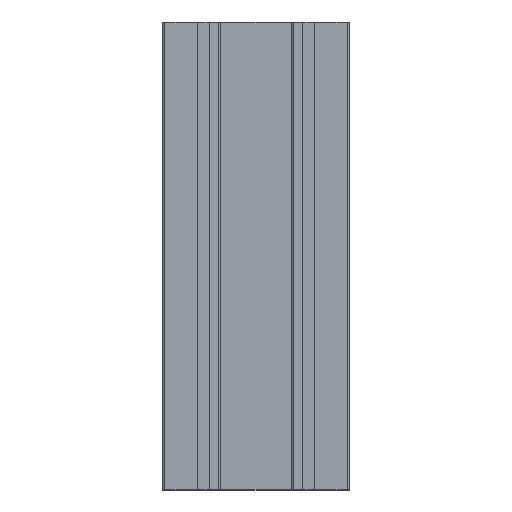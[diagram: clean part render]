
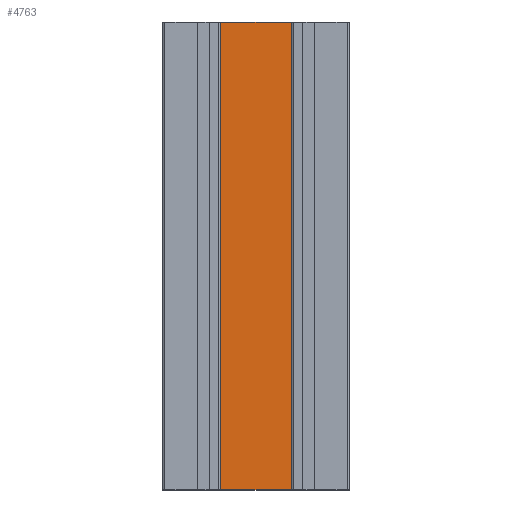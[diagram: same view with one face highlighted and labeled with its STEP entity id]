
A CAD part, left-side view. The second image highlights one B-rep face of the part: STEP entity #4763.
In plain terms, the highlighted planar face has unit normal (-1, 0, 0).
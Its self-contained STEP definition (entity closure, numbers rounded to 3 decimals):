
#409 = DIRECTION ( 'NONE',  ( 0., 1., 0. ) ) ;
#513 = VECTOR ( 'NONE', #6597, 1000. ) ;
#796 = CARTESIAN_POINT ( 'NONE',  ( 40.716, 133.505, 0. ) ) ;
#889 = ORIENTED_EDGE ( 'NONE', *, *, #4663, .T. ) ;
#1069 = VECTOR ( 'NONE', #1295, 1000. ) ;
#1183 = ORIENTED_EDGE ( 'NONE', *, *, #5260, .F. ) ;
#1295 = DIRECTION ( 'NONE',  ( 0., -1., 0. ) ) ;
#1428 = PLANE ( 'NONE',  #9916 ) ;
#1635 = LINE ( 'NONE', #3345, #6957 ) ;
#1734 = VERTEX_POINT ( 'NONE', #796 ) ;
#2237 = ORIENTED_EDGE ( 'NONE', *, *, #11699, .T. ) ;
#2299 = VECTOR ( 'NONE', #6385, 1000. ) ;
#2748 = CARTESIAN_POINT ( 'NONE',  ( 40.716, 133.505, 200. ) ) ;
#3314 = VERTEX_POINT ( 'NONE', #3508 ) ;
#3345 = CARTESIAN_POINT ( 'NONE',  ( 40.716, 163.505, 200. ) ) ;
#3508 = CARTESIAN_POINT ( 'NONE',  ( 40.716, 163.505, 200. ) ) ;
#3687 = ORIENTED_EDGE ( 'NONE', *, *, #9428, .F. ) ;
#4413 = DIRECTION ( 'NONE',  ( 0., 0., -1. ) ) ;
#4663 = EDGE_CURVE ( 'NONE', #10601, #1734, #12362, .T. ) ;
#4763 = ADVANCED_FACE ( 'NONE', ( #7569 ), #1428, .F. ) ;
#5110 = LINE ( 'NONE', #10694, #2299 ) ;
#5260 = EDGE_CURVE ( 'NONE', #8558, #1734, #5110, .T. ) ;
#5284 = EDGE_LOOP ( 'NONE', ( #889, #1183, #3687, #2237 ) ) ;
#6385 = DIRECTION ( 'NONE',  ( 0., 0., -1. ) ) ;
#6597 = DIRECTION ( 'NONE',  ( 0., -1., 0. ) ) ;
#6775 = DIRECTION ( 'NONE',  ( 1., 0., 0. ) ) ;
#6957 = VECTOR ( 'NONE', #4413, 1000. ) ;
#7569 = FACE_OUTER_BOUND ( 'NONE', #5284, .T. ) ;
#8558 = VERTEX_POINT ( 'NONE', #2748 ) ;
#8673 = LINE ( 'NONE', #12999, #513 ) ;
#8733 = CARTESIAN_POINT ( 'NONE',  ( 40.716, 84.906, 0. ) ) ;
#9428 = EDGE_CURVE ( 'NONE', #3314, #8558, #8673, .T. ) ;
#9916 = AXIS2_PLACEMENT_3D ( 'NONE', #13136, #6775, #409 ) ;
#10601 = VERTEX_POINT ( 'NONE', #13214 ) ;
#10694 = CARTESIAN_POINT ( 'NONE',  ( 40.716, 133.505, 200. ) ) ;
#11699 = EDGE_CURVE ( 'NONE', #3314, #10601, #1635, .T. ) ;
#12362 = LINE ( 'NONE', #8733, #1069 ) ;
#12999 = CARTESIAN_POINT ( 'NONE',  ( 40.716, 84.906, 200. ) ) ;
#13136 = CARTESIAN_POINT ( 'NONE',  ( 40.716, 84.906, 200. ) ) ;
#13214 = CARTESIAN_POINT ( 'NONE',  ( 40.716, 163.505, 0. ) ) ;
